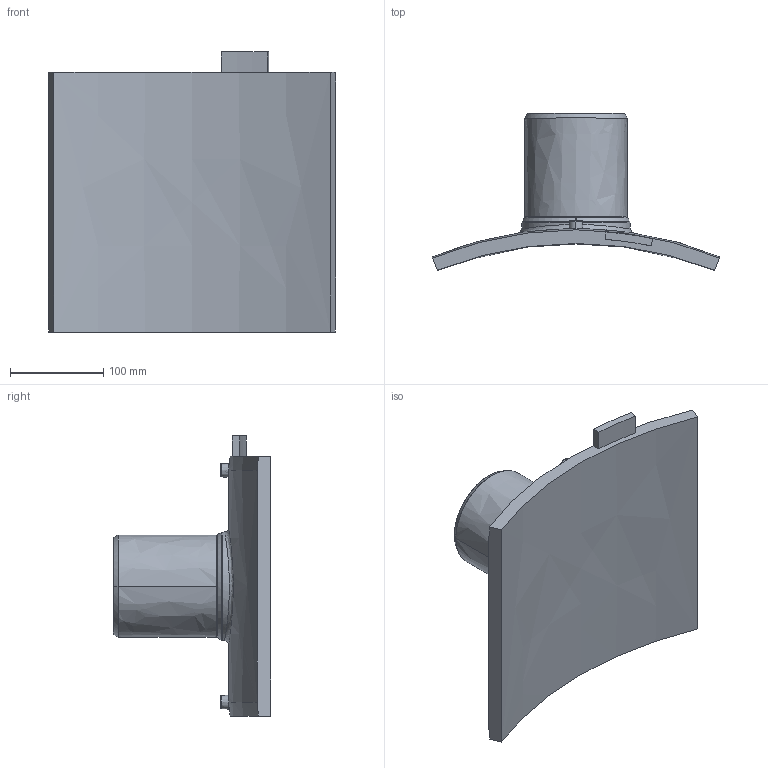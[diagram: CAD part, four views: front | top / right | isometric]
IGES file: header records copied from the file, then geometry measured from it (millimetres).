
Start section:  PTC IGES file: sa-uni_d800_110_01.igs
Global section: file name: sa-uni_d800_110_01.igs; native system: Pro/ENGINEER by Parametric Technology Corporation; preprocessor: 2011490; author: MikulicP; organization: Unknown; date: 20170206.113926; units: millimetre
Bounding box: 308.74 x 168.65 x 301 mm (x, y, z)
Surface area: 279510.6 mm2 (no closed solid volume)
Topology: 0 solids, 0 shells, 200 faces, 984 edges, 984 vertices
Faces by surface type: bspline 200
